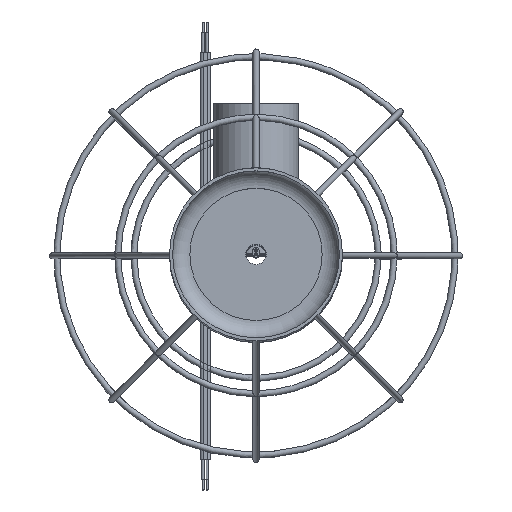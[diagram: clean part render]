
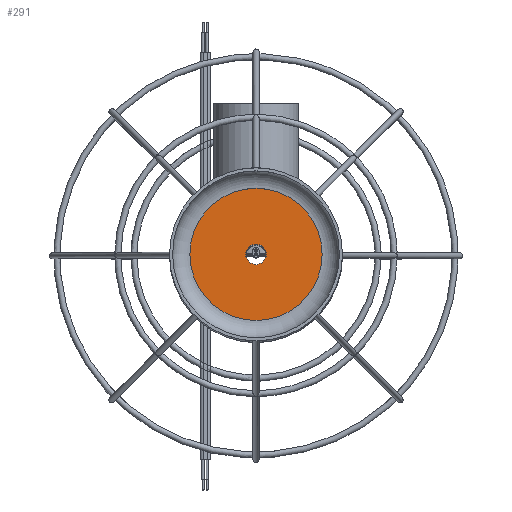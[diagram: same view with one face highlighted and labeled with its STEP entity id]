
A CAD part, top view. The second image highlights one B-rep face of the part: STEP entity #291.
In plain terms, the highlighted planar face has unit normal (0, 0, 1) as drawn and (0, 0, -1) by its records, which use the part's own axes.
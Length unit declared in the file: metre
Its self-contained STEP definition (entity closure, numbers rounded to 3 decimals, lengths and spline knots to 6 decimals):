
#291 = ADVANCED_FACE( '', ( #424, #425 ), #426, .T. );
#424 = FACE_OUTER_BOUND( '', #702, .T. );
#425 = FACE_BOUND( '', #703, .T. );
#426 = PLANE( '', #704 );
#702 = EDGE_LOOP( '', ( #1034 ) );
#703 = EDGE_LOOP( '', ( #1035 ) );
#704 = AXIS2_PLACEMENT_3D( '', #1036, #1037, #1038 );
#1034 = ORIENTED_EDGE( '', *, *, #1635, .T. );
#1035 = ORIENTED_EDGE( '', *, *, #1634, .F. );
#1036 = CARTESIAN_POINT( '', ( -0.0325, 0., 0.0225 ) );
#1037 = DIRECTION( '', ( 0., 0., -1. ) );
#1038 = DIRECTION( '', ( -1., 0., 0. ) );
#1634 = EDGE_CURVE( '', #1854, #1854, #1855, .T. );
#1635 = EDGE_CURVE( '', #1856, #1856, #1857, .T. );
#1854 = VERTEX_POINT( '', #2438 );
#1855 = CIRCLE( '', #2439, 0.005 );
#1856 = VERTEX_POINT( '', #2440 );
#1857 = CIRCLE( '', #2441, 0.0325 );
#2438 = CARTESIAN_POINT( '', ( -0.005, 0., 0.0225 ) );
#2439 = AXIS2_PLACEMENT_3D( '', #4778, #4779, #4780 );
#2440 = CARTESIAN_POINT( '', ( -0.0325, 0., 0.0225 ) );
#2441 = AXIS2_PLACEMENT_3D( '', #4781, #4782, #4783 );
#4778 = CARTESIAN_POINT( '', ( 0., 0., 0.0225 ) );
#4779 = DIRECTION( '', ( 0., 0., -1. ) );
#4780 = DIRECTION( '', ( -1., 0., 0. ) );
#4781 = CARTESIAN_POINT( '', ( 0., 0., 0.0225 ) );
#4782 = DIRECTION( '', ( 0., 0., -1. ) );
#4783 = DIRECTION( '', ( -1., 0., 0. ) );
